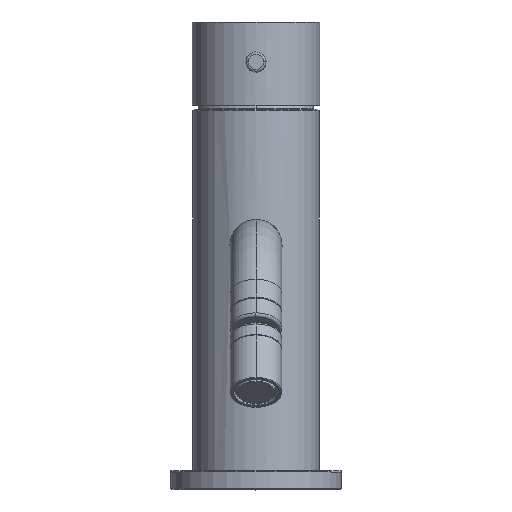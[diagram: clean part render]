
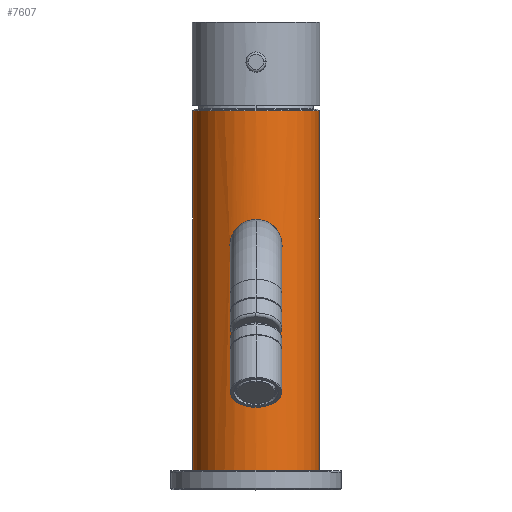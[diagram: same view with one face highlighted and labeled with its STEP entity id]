
A CAD part, top view. The second image highlights one B-rep face of the part: STEP entity #7607.
In plain terms, the highlighted cylindrical face has radius 22 mm (diameter 44 mm), a partial arc.
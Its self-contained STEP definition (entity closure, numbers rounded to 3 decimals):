
#1050=DIRECTION('',(0.,-1.,0.));
#1051=VECTOR('',#1050,125.5);
#1052=CARTESIAN_POINT('',(22.,125.5,0.));
#1053=LINE('',#1052,#1051);
#1059=DIRECTION('',(0.,-1.,0.));
#1060=VECTOR('',#1059,125.5);
#1061=CARTESIAN_POINT('',(-22.,125.5,
0.));
#1062=LINE('',#1061,#1060);
#1190=CARTESIAN_POINT('',(0.,125.5,0.));
#1191=DIRECTION('',(0.,-1.,0.));
#1192=DIRECTION('',(1.,0.,0.));
#1193=AXIS2_PLACEMENT_3D('',#1190,#1191,#1192);
#1195=CARTESIAN_POINT('',(0.,0.,0.));
#1196=DIRECTION('',(0.,1.,0.));
#1197=DIRECTION('',(-1.,0.,0.));
#1198=AXIS2_PLACEMENT_3D('',#1195,#1196,#1197);
#1200=CARTESIAN_POINT('',(-9.1,78.5,20.03));
#1201=CARTESIAN_POINT('',(-9.1,78.223,20.03));
#1202=CARTESIAN_POINT('',(-9.075,77.669,20.041));
#1203=CARTESIAN_POINT('',(-8.96,76.838,20.093));
#1204=CARTESIAN_POINT('',(-8.768,76.014,20.178));
#1205=CARTESIAN_POINT('',(-8.495,75.2,20.295));
#1206=CARTESIAN_POINT('',(-8.142,74.404,20.439));
#1207=CARTESIAN_POINT('',(-7.707,73.634,20.608));
#1208=CARTESIAN_POINT('',(-7.194,72.903,20.793));
#1209=CARTESIAN_POINT('',(-6.607,72.221,20.988));
#1210=CARTESIAN_POINT('',(-5.957,71.602,21.182));
#1211=CARTESIAN_POINT('',(-5.251,71.05,21.369));
#1212=CARTESIAN_POINT('',(-4.504,70.576,21.539));
#1213=CARTESIAN_POINT('',(-3.721,70.18,21.688));
#1214=CARTESIAN_POINT('',(-2.917,69.866,21.811));
#1215=CARTESIAN_POINT('',(-2.093,69.63,21.906));
#1216=CARTESIAN_POINT('',(-1.261,69.475,21.969));
#1217=CARTESIAN_POINT('',(-0.42,69.397,
22.001));
#1218=CARTESIAN_POINT('',(0.42,69.397,22.001));
#1219=CARTESIAN_POINT('',(1.261,69.475,21.969));
#1220=CARTESIAN_POINT('',(2.093,69.63,21.906));
#1221=CARTESIAN_POINT('',(2.917,69.866,21.811));
#1222=CARTESIAN_POINT('',(3.721,70.18,21.688));
#1223=CARTESIAN_POINT('',(4.504,70.576,21.539));
#1224=CARTESIAN_POINT('',(5.251,71.05,21.369));
#1225=CARTESIAN_POINT('',(5.957,71.602,21.182));
#1226=CARTESIAN_POINT('',(6.607,72.221,20.988));
#1227=CARTESIAN_POINT('',(7.194,72.903,20.793));
#1228=CARTESIAN_POINT('',(7.707,73.634,20.608));
#1229=CARTESIAN_POINT('',(8.142,74.404,20.439));
#1230=CARTESIAN_POINT('',(8.495,75.2,20.295));
#1231=CARTESIAN_POINT('',(8.768,76.014,20.178));
#1232=CARTESIAN_POINT('',(8.96,76.838,20.093));
#1233=CARTESIAN_POINT('',(9.075,77.669,20.041));
#1234=CARTESIAN_POINT('',(9.1,78.223,20.03));
#1235=CARTESIAN_POINT('',(9.1,78.5,20.03));
#1237=CARTESIAN_POINT('',(9.1,78.5,20.03));
#1238=CARTESIAN_POINT('',(9.1,78.777,20.03));
#1239=CARTESIAN_POINT('',(9.075,79.331,20.041));
#1240=CARTESIAN_POINT('',(8.96,80.162,20.093));
#1241=CARTESIAN_POINT('',(8.768,80.986,20.178));
#1242=CARTESIAN_POINT('',(8.495,81.8,20.295));
#1243=CARTESIAN_POINT('',(8.142,82.596,20.439));
#1244=CARTESIAN_POINT('',(7.707,83.366,20.608));
#1245=CARTESIAN_POINT('',(7.194,84.097,20.793));
#1246=CARTESIAN_POINT('',(6.607,84.779,20.988));
#1247=CARTESIAN_POINT('',(5.957,85.398,21.182));
#1248=CARTESIAN_POINT('',(5.251,85.95,21.369));
#1249=CARTESIAN_POINT('',(4.504,86.424,21.539));
#1250=CARTESIAN_POINT('',(3.721,86.82,21.688));
#1251=CARTESIAN_POINT('',(2.917,87.134,21.811));
#1252=CARTESIAN_POINT('',(2.093,87.37,21.906));
#1253=CARTESIAN_POINT('',(1.261,87.525,21.969));
#1254=CARTESIAN_POINT('',(0.42,87.603,22.001));
#1255=CARTESIAN_POINT('',(-0.42,87.603,
22.001));
#1256=CARTESIAN_POINT('',(-1.261,87.525,21.969));
#1257=CARTESIAN_POINT('',(-2.093,87.37,21.906));
#1258=CARTESIAN_POINT('',(-2.917,87.134,21.811));
#1259=CARTESIAN_POINT('',(-3.721,86.82,21.688));
#1260=CARTESIAN_POINT('',(-4.504,86.424,21.539));
#1261=CARTESIAN_POINT('',(-5.251,85.95,21.369));
#1262=CARTESIAN_POINT('',(-5.957,85.398,21.182));
#1263=CARTESIAN_POINT('',(-6.607,84.779,20.988));
#1264=CARTESIAN_POINT('',(-7.194,84.097,20.793));
#1265=CARTESIAN_POINT('',(-7.707,83.366,20.608));
#1266=CARTESIAN_POINT('',(-8.142,82.596,20.439));
#1267=CARTESIAN_POINT('',(-8.495,81.8,20.295));
#1268=CARTESIAN_POINT('',(-8.768,80.986,20.178));
#1269=CARTESIAN_POINT('',(-8.96,80.162,20.093));
#1270=CARTESIAN_POINT('',(-9.075,79.331,20.041));
#1271=CARTESIAN_POINT('',(-9.1,78.777,20.03));
#1272=CARTESIAN_POINT('',(-9.1,78.5,20.03));
#5334=CARTESIAN_POINT('',(-22.,125.5,0.));
#5335=CARTESIAN_POINT('',(22.,125.5,0.));
#5336=VERTEX_POINT('',#5334);
#5337=VERTEX_POINT('',#5335);
#5436=VERTEX_POINT('',#1200);
#5437=VERTEX_POINT('',#1235);
#6719=CARTESIAN_POINT('',(-22.,0.,0.));
#6720=CARTESIAN_POINT('',(22.,0.,0.));
#6721=VERTEX_POINT('',#6719);
#6722=VERTEX_POINT('',#6720);
#7588=CARTESIAN_POINT('',(0.,-6.3,0.));
#7589=DIRECTION('',(0.,1.,0.));
#7590=DIRECTION('',(1.,0.,0.));
#7591=AXIS2_PLACEMENT_3D('',#7588,#7589,#7590);
#7592=CYLINDRICAL_SURFACE('',#7591,22.);
#7593=ORIENTED_EDGE('',*,*,#7575,.F.);
#7595=ORIENTED_EDGE('',*,*,#7594,.F.);
#7596=ORIENTED_EDGE('',*,*,#7572,.T.);
#7598=ORIENTED_EDGE('',*,*,#7597,.F.);
#7599=EDGE_LOOP('',(#7593,#7595,#7596,#7598));
#7600=FACE_OUTER_BOUND('',#7599,.F.);
#7602=ORIENTED_EDGE('',*,*,#7601,.T.);
#7604=ORIENTED_EDGE('',*,*,#7603,.T.);
#7605=EDGE_LOOP('',(#7602,#7604));
#7606=FACE_BOUND('',#7605,.F.);
#7607=ADVANCED_FACE('',(#7600,#7606),#7592,.T.);
#1194=CIRCLE('',#1193,22.);
#1199=CIRCLE('',#1198,22.);
#1236=B_SPLINE_CURVE_WITH_KNOTS('',3,(#1200,#1201,#1202,#1203,#1204,#1205,#1206,
#1207,#1208,#1209,#1210,#1211,#1212,#1213,#1214,#1215,#1216,#1217,#1218,#1219,
#1220,#1221,#1222,#1223,#1224,#1225,#1226,#1227,#1228,#1229,#1230,#1231,#1232,
#1233,#1234,#1235),.UNSPECIFIED.,.F.,.F.,(4,1,1,1,1,1,1,1,1,1,1,1,1,1,1,1,1,1,1,
1,1,1,1,1,1,1,1,1,1,1,1,1,1,4),(0.,0.03,0.061,
0.091,0.121,0.152,0.182,
0.212,0.242,0.273,0.303,
0.333,0.364,0.394,0.424,
0.455,0.485,0.515,0.545,
0.576,0.606,0.636,0.667,
0.697,0.727,0.758,0.788,
0.818,0.848,0.879,0.909,
0.939,0.97,1.),.UNSPECIFIED.);
#1273=B_SPLINE_CURVE_WITH_KNOTS('',3,(#1237,#1238,#1239,#1240,#1241,#1242,#1243,
#1244,#1245,#1246,#1247,#1248,#1249,#1250,#1251,#1252,#1253,#1254,#1255,#1256,
#1257,#1258,#1259,#1260,#1261,#1262,#1263,#1264,#1265,#1266,#1267,#1268,#1269,
#1270,#1271,#1272),.UNSPECIFIED.,.F.,.F.,(4,1,1,1,1,1,1,1,1,1,1,1,1,1,1,1,1,1,1,
1,1,1,1,1,1,1,1,1,1,1,1,1,1,4),(0.,0.03,0.061,
0.091,0.121,0.152,0.182,
0.212,0.242,0.273,0.303,
0.333,0.364,0.394,0.424,
0.455,0.485,0.515,0.545,
0.576,0.606,0.636,0.667,
0.697,0.727,0.758,0.788,
0.818,0.848,0.879,0.909,
0.939,0.97,1.),.UNSPECIFIED.);
#7572=EDGE_CURVE('',#5337,#6722,#1053,.T.);
#7575=EDGE_CURVE('',#5336,#6721,#1062,.T.);
#7594=EDGE_CURVE('',#5337,#5336,#1194,.T.);
#7597=EDGE_CURVE('',#6721,#6722,#1199,.T.);
#7601=EDGE_CURVE('',#5436,#5437,#1236,.T.);
#7603=EDGE_CURVE('',#5437,#5436,#1273,.T.);
